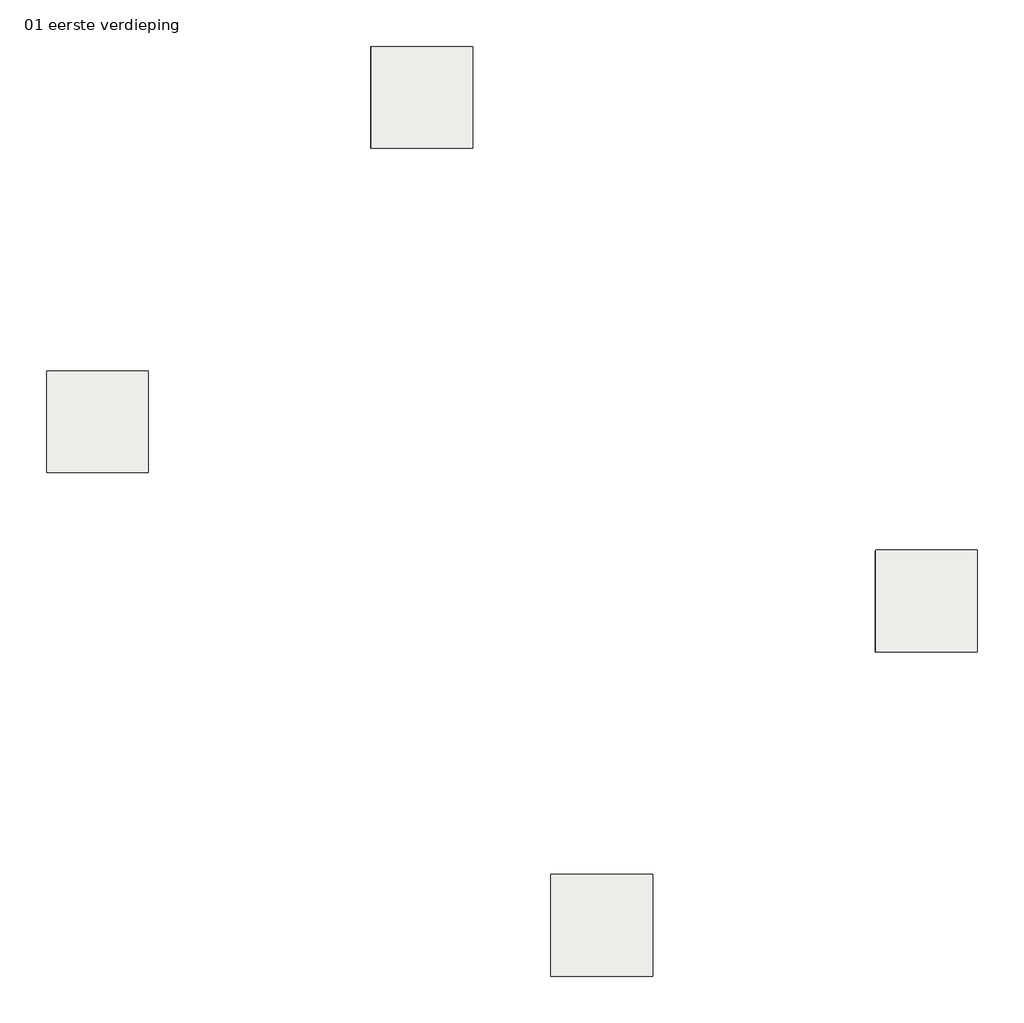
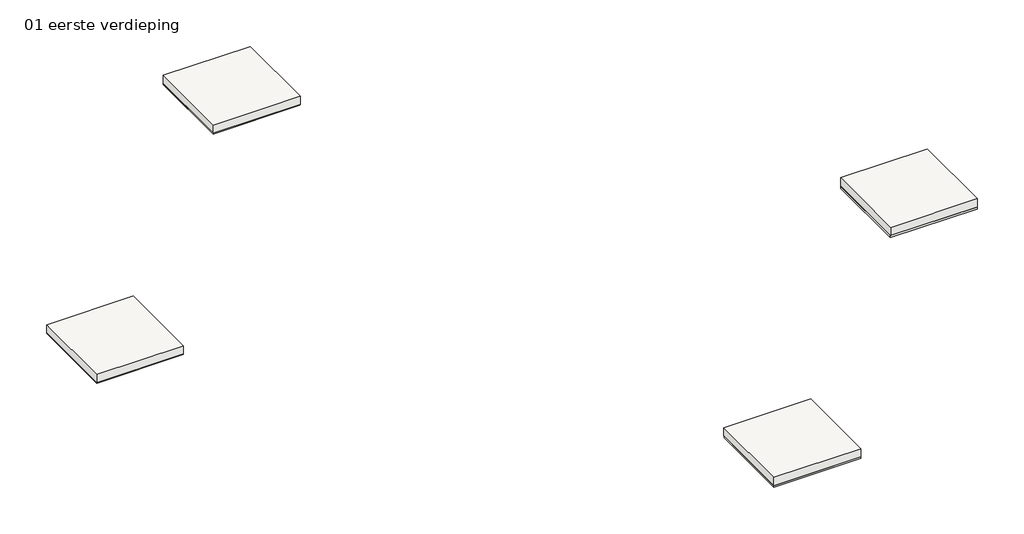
# One storey: 4 coverings, 4 slabs.
"""IFC4 building model written with IfcOpenShell, lengths in millimetres."""

from ifc_helpers import new_model, si_unit, frame, origin, place, context, project, spatial, polyline, outline, extrude, element, save

model = new_model("IFC4")

# Units and contexts
model_context = context("Model", 3, world=origin())
ifc_project = project(units=[si_unit("LENGTHUNIT", "METRE", prefix="MILLI")], contexts=[model_context])

# Site, building, storey
site = spatial("IfcSite", under=ifc_project)
building = spatial("IfcBuilding", under=site)
storey = spatial("IfcBuildingStorey", under=building, Name="01 eerste verdieping", Elevation=1800.0)

# Coverings
placement = place(None, origin())
element("IfcCovering", 1, ObjectType="NLRS_45_CEI_Heraklith - Basis 15x2000x600mm", at=placement, inside=storey, context=model_context, shape_type="SweptSolid", body=[
    extrude(outline(polyline([(2000.0, 4515.0), (2000.0, 2515.0), (0.0, 2515.0), (0.0, 4515.0), (2000.0, 4515.0)])), frame((0.0, 0.0, 1785.0), z_axis=(0.0, 0.0, 1.0), x_axis=(1.0, 0.0, 0.0)), (0.0, 0.0, 1.0), 15.0),
])
element("IfcCovering", 2, ObjectType="NLRS_45_CEI_Heraklith - Basis 25x2000x600mm", at=placement, inside=storey, context=model_context, shape_type="SweptSolid", body=[
    extrude(outline(polyline([(8363.9610307, 10878.9610307), (8363.9610307, 8883.9610307), (6363.9610307, 8883.9610307), (6363.9610307, 10878.9610307), (8363.9610307, 10878.9610307)])), frame((0.0, 0.0, 1775.0), z_axis=(0.0, 0.0, 1.0), x_axis=(1.0, 0.0, 0.0)), (0.0, 0.0, 1.0), 20.0),
])
element("IfcCovering", 3, ObjectType="NLRS_45_CEI_Heraklith - Basis 35x2000x600mm", at=placement, inside=storey, context=model_context, shape_type="SweptSolid", body=[
    extrude(outline(polyline([(11899.4949366, -5384.4949366), (11899.4949366, -7374.4949366), (9899.4949366, -7374.4949366), (9899.4949366, -5384.4949366), (11899.4949366, -5384.4949366)])), frame((0.0, 0.0, 1785.0), z_axis=(0.0, 0.0, 1.0), x_axis=(1.0, 0.0, 0.0)), (0.0, 0.0, 1.0), 35.0),
])
element("IfcCovering", 4, ObjectType="NLRS_45_CEI_Heraklith - Basis 50x2000x600mm", at=placement, inside=storey, context=model_context, shape_type="SweptSolid", body=[
    extrude(outline(polyline([(18263.4559673, 979.4660941), (18263.4559673, -1003.0339059), (16263.4559673, -1003.0339059), (16263.4559673, 979.4660941), (18263.4559673, 979.4660941)])), frame((0.0, 0.0, 1775.0), z_axis=(0.0, 0.0, 1.0), x_axis=(1.0, 0.0, 0.0)), (0.0, 0.0, 1.0), 50.0),
])

# Slabs
element("IfcSlab", 5, ObjectType="Generic 200mm", at=placement, inside=storey, context=model_context, shape_type="SweptSolid", body=[
    extrude(outline(polyline([(2000.0, 4515.0), (2000.0, 2515.0), (0.0, 2515.0), (0.0, 4515.0), (2000.0, 4515.0)])), frame((0.0, 0.0, 1800.0), z_axis=(0.0, 0.0, 1.0), x_axis=(1.0, 0.0, 0.0)), (0.0, 0.0, 1.0), 200.0),
])
element("IfcSlab", 6, ObjectType="Generic 200mm", at=placement, inside=storey, context=model_context, shape_type="SweptSolid", body=[
    extrude(outline(polyline([(8368.9610307, 10883.9610307), (8368.9610307, 8883.9610307), (6368.9610307, 8883.9610307), (6368.9610307, 10883.9610307), (8368.9610307, 10883.9610307)])), frame((0.0, 0.0, 1795.0), z_axis=(0.0, 0.0, 1.0), x_axis=(1.0, 0.0, 0.0)), (0.0, 0.0, 1.0), 200.0),
])
element("IfcSlab", 7, ObjectType="Generic 200mm", at=placement, inside=storey, context=model_context, shape_type="SweptSolid", body=[
    extrude(outline(polyline([(11899.4949366, -5374.4949366), (11899.4949366, -7374.4949366), (9899.4949366, -7374.4949366), (9899.4949366, -5374.4949366), (11899.4949366, -5374.4949366)])), frame((0.0, 0.0, 1820.0), z_axis=(0.0, 0.0, 1.0), x_axis=(1.0, 0.0, 0.0)), (0.0, 0.0, 1.0), 200.0),
])
element("IfcSlab", 8, ObjectType="Generic 200mm", at=placement, inside=storey, context=model_context, shape_type="SweptSolid", body=[
    extrude(outline(polyline([(18270.9559673, 996.9660941), (18270.9559673, -1003.0339059), (16270.9559673, -1003.0339059), (16270.9559673, 996.9660941), (18270.9559673, 996.9660941)])), frame((0.0, 0.0, 1825.0), z_axis=(0.0, 0.0, 1.0), x_axis=(1.0, 0.0, 0.0)), (0.0, 0.0, 1.0), 200.0),
])

save(model, "model.ifc")
